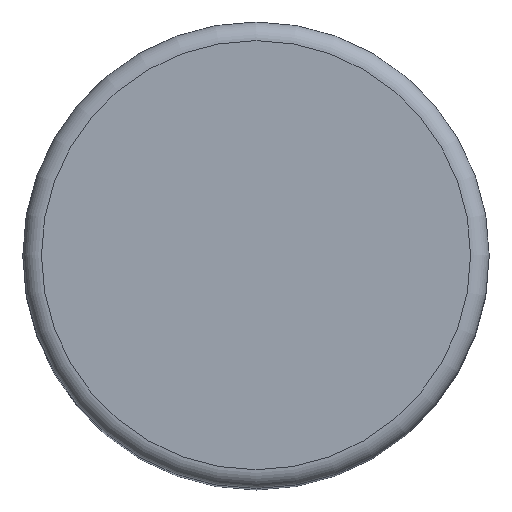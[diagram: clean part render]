
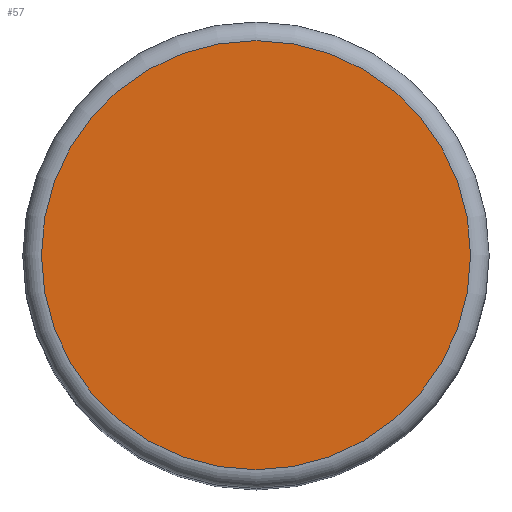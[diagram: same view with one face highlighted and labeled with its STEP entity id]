
A CAD part, top view. The second image highlights one B-rep face of the part: STEP entity #57.
In plain terms, the highlighted planar face has unit normal (0, 0, 1).
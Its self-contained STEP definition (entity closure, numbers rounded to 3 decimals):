
#14=PLANE('',#68);
#22=FACE_OUTER_BOUND('',#29,.T.);
#29=EDGE_LOOP('',(#49));
#33=CIRCLE('',#64,2.3);
#37=VERTEX_POINT('',#94);
#41=EDGE_CURVE('',#37,#37,#33,.T.);
#49=ORIENTED_EDGE('',*,*,#41,.F.);
#57=ADVANCED_FACE('',(#22),#14,.F.);
#64=AXIS2_PLACEMENT_3D('',#95,#76,#77);
#68=AXIS2_PLACEMENT_3D('',#101,#84,#85);
#76=DIRECTION('center_axis',(0.,0.,-1.));
#77=DIRECTION('ref_axis',(-1.,0.,0.));
#84=DIRECTION('center_axis',(0.,0.,-1.));
#85=DIRECTION('ref_axis',(-1.,0.,0.));
#94=CARTESIAN_POINT('',(2.3,0.,10.));
#95=CARTESIAN_POINT('Origin',(0.,0.,10.));
#101=CARTESIAN_POINT('Origin',(0.,0.,10.));
